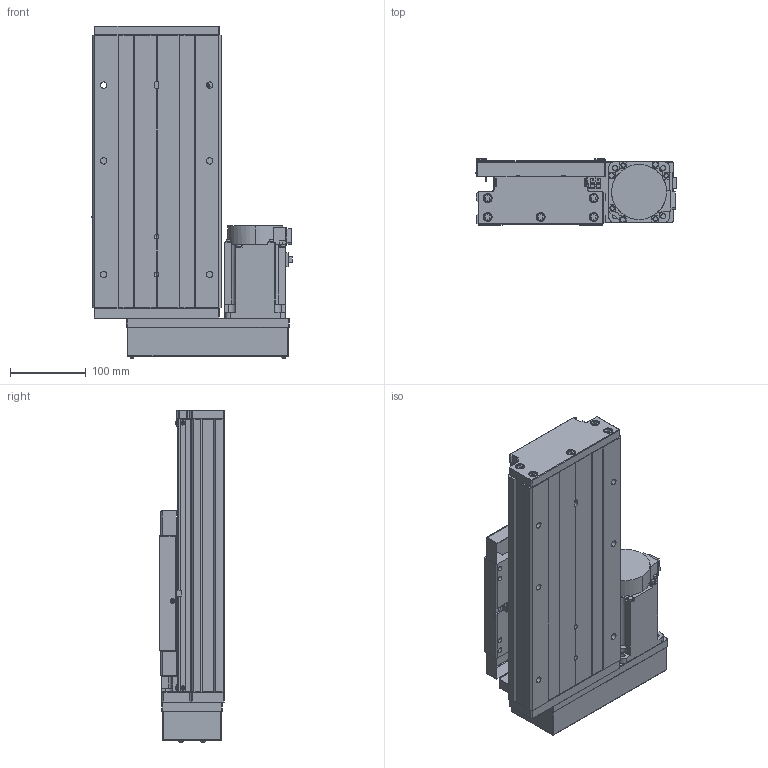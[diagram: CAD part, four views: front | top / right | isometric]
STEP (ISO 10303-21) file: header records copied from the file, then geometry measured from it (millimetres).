
FILE_DESCRIPTION (( 'STEP AP203' ), '1' );
FILE_NAME ('GTH17-100-BR-M75-C4.step', '2023-06-30T13:16:32', ( '微软用户' ), ( '微软中国' ), 'SwSTEP 2.0', 'SolidWorks 2020', '' );
FILE_SCHEMA (( 'CONFIG_CONTROL_DESIGN' ));
Length unit declared in the file: millimetre
Products named in the file (19): GBT 70.2-M4¡Á45_M4¡Á35; EE_SX911P_R; GTH17-001_100; GTH17-015-2_CTHA86-015-2; CTHA60-016; GTH17-002_GTH17-002; GTH17-033; GBT 70.1-M3℅5; GTH17-031; GTH17-004; GTH17-100-BR-M75-C4; GBT77-2000 M3×3; GBT 70.2-M3¡Á5_M3¡Á6; GTH17-005; GBT 70.1-M6¡Á20_M6¡Á20; す晦芛蹟隊 M3℅5; GB1155-6X6; HG-KN73J-S100; CTHA60-017
Assembly tree (58 placements, depth 2):
  GTH17-100-BR-M75-C4
    GTH17-001_100
    GTH17-002_GTH17-002
    GTH17-004
    GTH17-005
    GB1155-6X6  x2
    CTHA60-017  x3
    EE_SX911P_R  x3
    CTHA60-016  x2
    GBT 70.1-M3℅5  x6
    GBT77-2000 M3×3  x6
    GBT 70.1-M6¡Á20_M6¡Á20  x10
    GTH17-031
    GBT 70.2-M3¡Á5_M3¡Á6  x8
    す晦芛蹟隊 M3℅5  x6
    HG-KN73J-S100
    GBT 70.2-M4¡Á45_M4¡Á35  x4
    GTH17-015-2_CTHA86-015-2
    GTH17-033
Bounding box: 264.3 x 87 x 438.2 mm (x, y, z)
Volume: 4274763.5 mm3; surface area: 731659 mm2
Topology: 61 solids, 61 shells, 2419 faces, 5773 edges, 3571 vertices
Faces by surface type: plane 1304, cylinder 642, cone 297, torus 124, sphere 32, bspline 20
Entity records: 43814 total; most frequent: CARTESIAN_POINT 10216, DIRECTION 6301, ORIENTED_EDGE 6258, EDGE_CURVE 3129, AXIS2_PLACEMENT_3D 2134, LINE 2033, VECTOR 2033, VERTEX_POINT 1983
